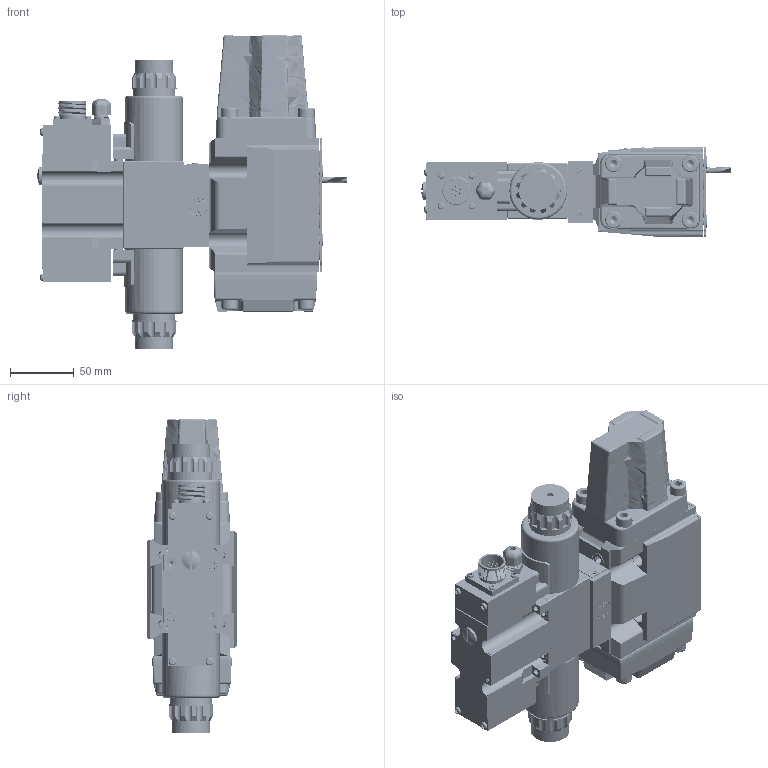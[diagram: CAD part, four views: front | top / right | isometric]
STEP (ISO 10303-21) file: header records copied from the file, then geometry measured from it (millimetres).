
FILE_DESCRIPTION(/* description */ (''),/* implementation_level */ '2;1');
FILE_NAME(/* name */ '4WRZE10.stp',/* time_stamp */ '2023-11-23T14:30:52+08:00',/* author */ (''),/* organization */ (''),/* preprocessor_version */ 'ST-DEVELOPER v16.7',/* originating_system */ 'SIEMENS PLM Software NX 12.0',/* authorisation */ '');
FILE_SCHEMA (('AUTOMOTIVE_DESIGN { 1 0 10303 214 3 1 1 1 }'));
Products named in the file (1): 4WRZE10
Bounding box: 242.17 x 70 x 246 mm (x, y, z)
Volume: 2011221.8 mm3; surface area: 625148.1 mm2
Topology: 122 solids, 123 shells, 9335 faces, 22669 edges, 14765 vertices
Faces by surface type: plane 4534, cylinder 3727, cone 573, bspline 282, torus 127, revolution 57, sphere 25, extrusion 10
Full cylindrical faces by diameter (mm): 0.6 x1, 1 x2, 1.2 x1, 1.5 x4, 1.6 x7, 1.8 x10, 2 x12, 2.3 x2, 2.5 x20, 3 x13, 3.2 x56, 3.6 x2, 4 x8, 4.134 x56, 4.2 x1, 4.5 x10, 4.8 x1, 4.917 x7, 5 x119, 5.1 x2, 5.2 x4, 5.3 x4, 5.4 x2, 5.5 x8, 5.6 x8, 5.774 x1, 6 x14, 6.2 x12, 6.5 x5, 6.6 x8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
Entity records: 413928 total; most frequent: CARTESIAN_POINT 212440, DIRECTION 41211, ORIENTED_EDGE 37834, EDGE_CURVE 18917, AXIS2_PLACEMENT_3D 15927, VERTEX_POINT 13644, EDGE_LOOP 12609, VECTOR 9300
